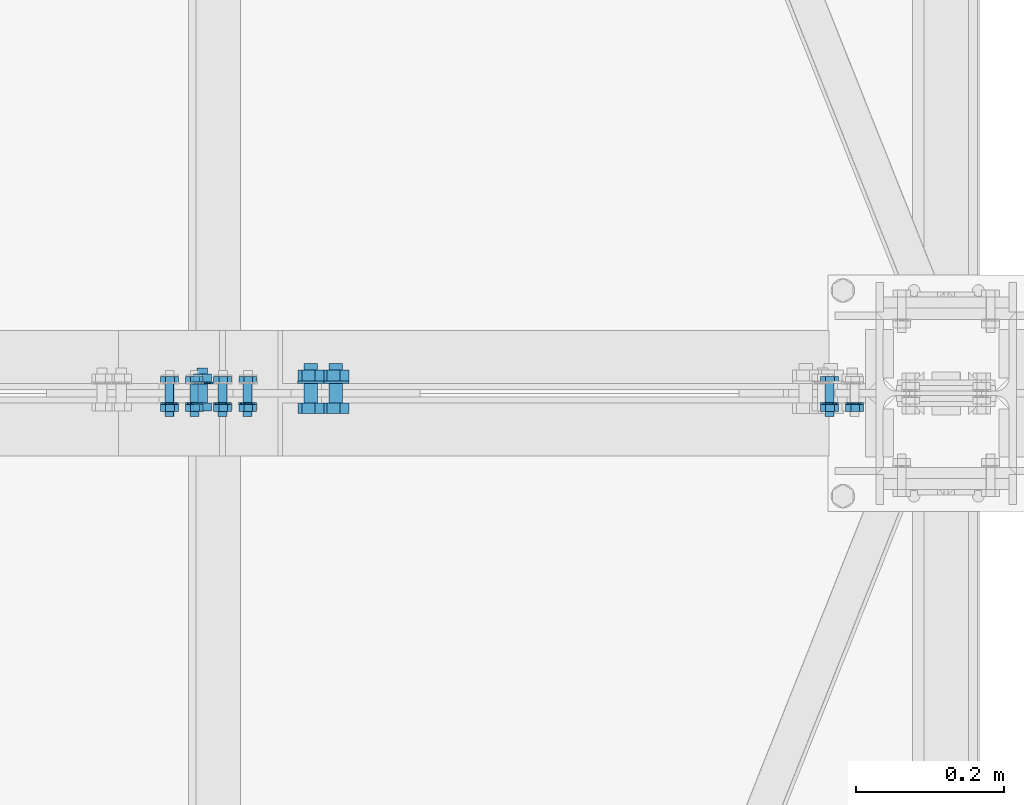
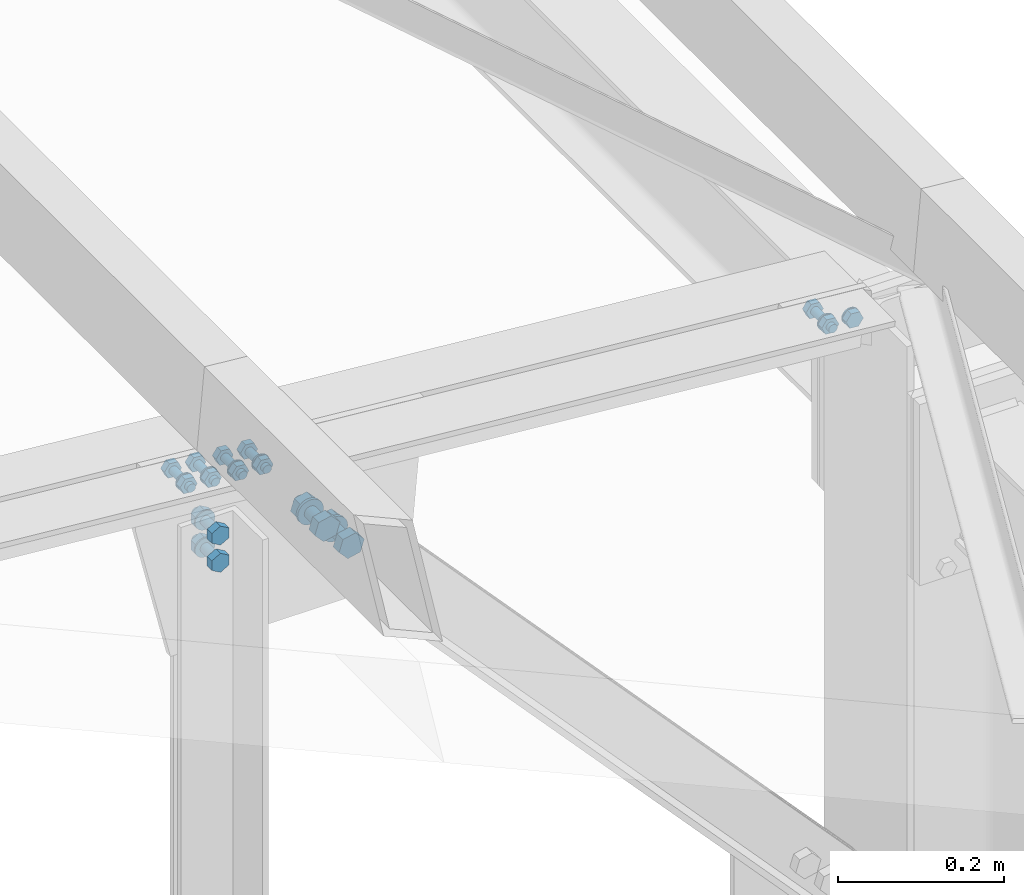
# One storey, part 112 of 251: 38 mechanical fasteners.
"""IFC4 building model written with IfcOpenShell, lengths in metres."""

import ifcopenshell
import ifcopenshell.guid

model = None  # the IFC model being written
_history = None  # IfcOwnerHistory: only IFC2X3 demands one
_inside = {}  # id of a spatial element -> (the spatial element, [elements in it])
_under = {}  # id of a project, library or spatial element -> (it, [spatial elements below it])
_declared = {}  # id of a project -> (the project, [libraries it declares])
_typed = {}  # id of a type object -> (the type object, [elements of that type])
_made_of = {}  # id of a material, layer set ... -> (it, [elements and type objects made of it])


def new_model(schema):
    """Start an empty IFC model of exactly this schema.

    Asked for "IFC4X3", IfcOpenShell would pick the latest addendum, in which some entities
    have other attributes; the version numbers below select the first issue.
    IFC2X3 requires an IfcOwnerHistory on every rooted entity: one is made here for all.
    """
    global model, _history
    if schema == "IFC4X3":
        model = ifcopenshell.file(schema_version=(4, 3, 0, 0))
    else:
        model = ifcopenshell.file(schema=schema)
    _inside.clear()
    _under.clear()
    _declared.clear()
    _typed.clear()
    _made_of.clear()
    _history = None
    if model.schema == "IFC2X3":
        org = make("IfcOrganization", Name="unknown")
        user = make(
            "IfcPersonAndOrganization",
            ThePerson=make("IfcPerson", FamilyName="unknown"),
            TheOrganization=org,
        )
        app = make(
            "IfcApplication",
            ApplicationDeveloper=org,
            Version="unknown",
            ApplicationFullName="unknown",
            ApplicationIdentifier="unknown",
        )
        _history = make(
            "IfcOwnerHistory",
            OwningUser=user,
            OwningApplication=app,
            ChangeAction="ADDED",
            CreationDate=0,
        )
    return model


def make(cls, **values):
    """One entity of the class cls with the attributes given. An attribute that is None is left unset."""
    return model.create_entity(
        cls, **{name: value for name, value in values.items() if value is not None}
    )


def rooted(cls, **values):
    """An entity with a GlobalId (a new one), such as an element, a storey or a relation."""
    return make(cls, GlobalId=ifcopenshell.guid.new(), OwnerHistory=_history, **values)


def si_unit(unit_type, name, prefix=None):
    """IfcSIUnit, for example si_unit("LENGTHUNIT", "METRE", prefix="MILLI")."""
    return make("IfcSIUnit", UnitType=unit_type, Prefix=prefix, Name=name)


def assignment(units):
    """IfcUnitAssignment: the units of a project."""
    return None if units is None else make("IfcUnitAssignment", Units=units)


def point(xyz):
    """IfcCartesianPoint."""
    return None if xyz is None else make("IfcCartesianPoint", Coordinates=xyz)


def direction(xyz):
    """IfcDirection."""
    return None if xyz is None else make("IfcDirection", DirectionRatios=xyz)


def frame(location, z_axis=None, x_axis=None):
    """IfcAxis2Placement3D, a coordinate frame: its origin and axes. An axis left out is left unset."""
    return make(
        "IfcAxis2Placement3D",
        Location=point(location),
        Axis=direction(z_axis),
        RefDirection=direction(x_axis),
    )


def origin_with_axes():
    """The frame at (0, 0, 0) with the z axis (0, 0, 1) and the x axis (1, 0, 0) written out."""
    return frame((0.0, 0.0, 0.0), z_axis=(0.0, 0.0, 1.0), x_axis=(1.0, 0.0, 0.0))


def place(relative_to, where):
    """IfcLocalPlacement: puts the frame where relative to a parent placement (None: the world)."""
    return make(
        "IfcLocalPlacement", PlacementRelTo=relative_to, RelativePlacement=where
    )


def context(
    kind, dimensions, precision=None, world=None, true_north=None, identifier=None
):
    """IfcGeometricRepresentationContext, for example the 3D "Model" context."""
    return make(
        "IfcGeometricRepresentationContext",
        ContextIdentifier=identifier,
        ContextType=kind,
        CoordinateSpaceDimension=dimensions,
        Precision=precision,
        WorldCoordinateSystem=world,
        TrueNorth=true_north,
    )


def project(units=None, contexts=None):
    """IfcProject with its units and contexts."""
    return rooted(
        "IfcProject",
        Name="project",
        RepresentationContexts=contexts,
        UnitsInContext=assignment(units),
    )


def spatial(cls, under=None, at=None, **own):
    """A site, building, storey or space (cls), placed at a placement, below another one or the project."""
    s = rooted(cls, ObjectPlacement=at, **own)
    if under is not None:
        _under.setdefault(under.id(), (under, []))[1].append(s)
    return s


def polyline(points):
    """IfcPolyline through the points."""
    return make("IfcPolyline", Points=[point(p) for p in points])


def outline(outer, holes=None, kind="AREA"):
    """IfcArbitraryClosedProfileDef: a profile drawn as a closed curve; with holes, ...WithVoids."""
    if holes is None:
        return make("IfcArbitraryClosedProfileDef", ProfileType=kind, OuterCurve=outer)
    return make(
        "IfcArbitraryProfileDefWithVoids",
        ProfileType=kind,
        OuterCurve=outer,
        InnerCurves=holes,
    )


def extrude(swept, where, along, depth):
    """IfcExtrudedAreaSolid: the profile swept, set in the frame where, extruded along a direction by depth."""
    return make(
        "IfcExtrudedAreaSolid",
        SweptArea=swept,
        Position=where,
        ExtrudedDirection=direction(along),
        Depth=depth,
    )


def shape(context_of_items, identifier, shape_type, items):
    """IfcShapeRepresentation: the items that make up one representation, for example the "Body"."""
    return make(
        "IfcShapeRepresentation",
        ContextOfItems=context_of_items,
        RepresentationIdentifier=identifier,
        RepresentationType=shape_type,
        Items=items,
    )


def made_of(thing, what):
    """Note that an element or type object is made of a material, layer set ...; save() writes the relation."""
    if what is not None:
        _made_of.setdefault(what.id(), (what, []))[1].append(thing)
    return thing


def type_object(cls, material=None, **own):
    """A type object (cls), such as IfcWallType, which elements share."""
    return made_of(rooted(cls, **own), material)


def element(
    cls,
    number,
    at=None,
    inside=None,
    cuts=None,
    type_object=None,
    material=None,
    context=None,
    identifier="Body",
    shape_type=None,
    held_by="IfcProductDefinitionShape",
    body=None,
    shapes=None,
    **own,
):
    """One element of the class cls, such as IfcWall. Its Tag is "e" and its number.

    at: its placement. inside: the storey or other place that contains it. cuts: it is an
    opening in that element (IfcRelVoidsElement). A single representation is given by context,
    identifier, shape_type and body (its items); several are given by shapes. held_by: the class
    of the entity that holds the representations. save() writes the other relations.
    """
    e = rooted(cls, Tag="e%d" % number, ObjectPlacement=at, **own)
    if body is not None:
        shapes = [shape(context, identifier, shape_type, body)]
    if shapes is not None:
        e.Representation = make(held_by, Representations=shapes)
    if inside is not None:
        _inside.setdefault(inside.id(), (inside, []))[1].append(e)
    if cuts is not None:
        rooted(
            "IfcRelVoidsElement", RelatingBuildingElement=cuts, RelatedOpeningElement=e
        )
    if type_object is not None:
        _typed.setdefault(type_object.id(), (type_object, []))[1].append(e)
    return made_of(e, material)


def aggregate(whole, parts):
    """IfcRelAggregates: a whole, such as a stair, and the parts it consists of."""
    return rooted("IfcRelAggregates", RelatingObject=whole, RelatedObjects=parts)


def save(model, path):
    """Write the relations noted so far, then the file.

    IfcRelAggregates (storeys below a building ...), IfcRelContainedInSpatialStructure (elements
    in a storey), IfcRelDefinesByType, IfcRelAssociatesMaterial and IfcRelDeclares: one each for
    every whole, place, type object, material and project.
    """
    for whole, parts in _under.values():
        aggregate(whole, parts)
    for where, things in _inside.values():
        rooted(
            "IfcRelContainedInSpatialStructure",
            RelatedElements=things,
            RelatingStructure=where,
        )
    for kind, things in _typed.values():
        rooted("IfcRelDefinesByType", RelatedObjects=things, RelatingType=kind)
    for what, things in _made_of.values():
        rooted("IfcRelAssociatesMaterial", RelatedObjects=things, RelatingMaterial=what)
    for by, libraries in _declared.values():
        rooted("IfcRelDeclares", RelatingContext=by, RelatedDefinitions=libraries)
    model.write(path)


model = new_model("IFC4")

# Units and contexts
model_context = context("Model", 3, precision=1e-05, world=origin_with_axes())
ifc_project = project(units=[si_unit("LENGTHUNIT", "METRE"), si_unit("AREAUNIT", "SQUARE_METRE"), si_unit("VOLUMEUNIT", "CUBIC_METRE"), si_unit("MASSUNIT", "GRAM", prefix="KILO"), si_unit("TIMEUNIT", "SECOND"), si_unit("PLANEANGLEUNIT", "RADIAN"), si_unit("SOLIDANGLEUNIT", "STERADIAN"), si_unit("THERMODYNAMICTEMPERATUREUNIT", "DEGREE_CELSIUS")], contexts=[model_context])

# Site, building, storey
placement_1 = place(None, origin_with_axes())
site = spatial("IfcSite", under=ifc_project, at=placement_1, Name="Italia", CompositionType="ELEMENT")
building = spatial("IfcBuilding", under=site, at=placement_1, Name="Deposito", CompositionType="ELEMENT")
storey = spatial("IfcBuildingStorey", under=building, at=placement_1, Name="Storey 0", CompositionType="ELEMENT", Elevation=0.0)

# Mechanical fasteners
mechanical_fastener_type_1 = type_object("IfcMechanicalFastenerType", Name="Reticolare 3", PredefinedType="BOLT")
placement_2 = place(placement_1, origin_with_axes())
mechanical_fastener_1_placement = place(placement_2, origin_with_axes())
element("IfcMechanicalFastener", 1, at=mechanical_fastener_1_placement, inside=storey, type_object=mechanical_fastener_type_1, Name="Reticolare 3", NominalDiameter=0.011999, context=model_context, shape_type="SweptSolid", body=[
    extrude(outline(polyline([(0.0, 0.0), (0.0119534, 0.00104618), (0.018837, -0.00878382), (0.0137653, -0.0196595), (0.00181198, -0.0207052), (-0.00507164, -0.0108757), (0.0, 0.0)])), frame((19.8831, 4.9754, 6.01363), z_axis=(0.0, 1.0, 0.0), x_axis=(-1.0, 0.0, 0.0)), (0.0, 0.0, 1.0), 0.00960016),
])
mechanical_fastener_type_2 = type_object("IfcMechanicalFastenerType", Name="Reticolare 3", PredefinedType="BOLT")
mechanical_fastener_2_placement = place(placement_2, origin_with_axes())
element("IfcMechanicalFastener", 2, at=mechanical_fastener_2_placement, inside=storey, type_object=mechanical_fastener_type_2, Name="Reticolare 3", NominalDiameter=0.024, context=model_context, shape_type="SweptSolid", body=[
    extrude(outline(polyline([(0.0, 0.0), (-0.000408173, -0.00310564), (-0.00160599, -0.00600004), (-0.00351334, -0.00848532), (-0.00599861, -0.0103922), (-0.00889397, -0.011591), (-0.0119991, -0.0120001), (-0.0151043, -0.011591), (-0.0179996, -0.0103922), (-0.0204849, -0.00848532), (-0.0223923, -0.00600004), (-0.0235901, -0.00310564), (-0.0239983, 0.0), (-0.0235901, 0.00310564), (-0.0223923, 0.00600004), (-0.0204849, 0.00848532), (-0.0179996, 0.0103922), (-0.0151043, 0.011591), (-0.0119991, 0.0120001), (-0.00889397, 0.011591), (-0.00599861, 0.0103922), (-0.00351334, 0.00848532), (-0.00160599, 0.00600004), (-0.000408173, 0.00310564), (0.0, 0.0)])), frame((19.8642, 4.985, 6.0038), z_axis=(0.0, 1.0, 0.0), x_axis=(-1.0, 0.0, 0.0)), (0.0, 0.0, 1.0), 0.00199986),
])
mechanical_fastener_type_3 = type_object("IfcMechanicalFastenerType", Name="Reticolare 3", PredefinedType="BOLT")
mechanical_fastener_3_placement = place(placement_2, origin_with_axes())
element("IfcMechanicalFastener", 3, at=mechanical_fastener_3_placement, inside=storey, type_object=mechanical_fastener_type_3, Name="Reticolare 3", NominalDiameter=0.011999, context=model_context, shape_type="SweptSolid", body=[
    extrude(outline(polyline([(0.0, 0.0), (0.0119534, 0.0010457), (0.018837, -0.00878429), (0.0137653, -0.01966), (0.00181198, -0.0207057), (-0.00507164, -0.0108757), (0.0, 0.0)])), frame((19.8492, 5.013, 6.0166), z_axis=(0.0, 1.0, 0.0), x_axis=(-1.0, 0.0, 0.0)), (0.0, 0.0, 1.0), 0.00960016),
])
mechanical_fastener_type_4 = type_object("IfcMechanicalFastenerType", Name="Reticolare 3", PredefinedType="BOLT")
mechanical_fastener_4_placement = place(placement_2, origin_with_axes())
element("IfcMechanicalFastener", 4, at=mechanical_fastener_4_placement, inside=storey, type_object=mechanical_fastener_type_4, Name="Reticolare 3", NominalDiameter=0.012, context=model_context, shape_type="SweptSolid", body=[
    extrude(outline(polyline([(0.0, 0.0), (-0.000204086, -0.00155306), (-0.000804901, -0.00299978), (-0.00175858, -0.00424242), (-0.00300026, -0.00519609), (-0.00444794, -0.00579548), (-0.00600052, -0.00600004), (-0.0075531, -0.00579548), (-0.00900078, -0.00519609), (-0.0102425, -0.00424242), (-0.0111961, -0.00299978), (-0.011797, -0.00155306), (-0.012001, 0.0), (-0.011797, 0.00155306), (-0.0111961, 0.00299978), (-0.0102425, 0.00424242), (-0.00900078, 0.00519609), (-0.0075531, 0.00579548), (-0.00600052, 0.00600004), (-0.00444794, 0.00579548), (-0.00300026, 0.00519609), (-0.00175858, 0.00424242), (-0.000804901, 0.00299978), (-0.000204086, 0.00155306), (0.0, 0.0)])), frame((19.8363, 4.969, 6.00677), z_axis=(0.0, 1.0, 0.0), x_axis=(-1.0, 0.0, 0.0)), (0.0, 0.0, 1.0), 0.0440001),
])
mechanical_fastener_type_5 = type_object("IfcMechanicalFastenerType", Name="Reticolare 3", PredefinedType="BOLT")
mechanical_fastener_5_placement = place(placement_2, origin_with_axes())
element("IfcMechanicalFastener", 5, at=mechanical_fastener_5_placement, inside=storey, type_object=mechanical_fastener_type_5, Name="Reticolare 3", NominalDiameter=0.011999, context=model_context, shape_type="SweptSolid", body=[
    extrude(outline(polyline([(0.0, 0.0), (0.0119534, 0.0010457), (0.018837, -0.00878429), (0.0137653, -0.01966), (0.00181198, -0.0207057), (-0.00507164, -0.0108757), (0.0, 0.0)])), frame((19.8492, 4.9754, 6.0166), z_axis=(0.0, 1.0, 0.0), x_axis=(-1.0, 0.0, 0.0)), (0.0, 0.0, 1.0), 0.00960016),
])
mechanical_fastener_type_6 = type_object("IfcMechanicalFastenerType", Name="Reticolare 3", PredefinedType="BOLT")
mechanical_fastener_6_placement = place(placement_2, origin_with_axes())
element("IfcMechanicalFastener", 6, at=mechanical_fastener_6_placement, inside=storey, type_object=mechanical_fastener_type_6, Name="Reticolare 3", NominalDiameter=0.024, context=model_context, shape_type="SweptSolid", body=[
    extrude(outline(polyline([(0.0, 0.0), (-0.000408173, -0.00310564), (-0.00160599, -0.00600004), (-0.00351334, -0.00848532), (-0.00599861, -0.0103922), (-0.00889397, -0.011591), (-0.0119991, -0.0120001), (-0.0151043, -0.011591), (-0.0179996, -0.0103922), (-0.0204849, -0.00848532), (-0.0223923, -0.00600004), (-0.0235901, -0.00310564), (-0.0239983, 0.0), (-0.0235901, 0.00310564), (-0.0223923, 0.00600004), (-0.0204849, 0.00848532), (-0.0179996, 0.0103922), (-0.0151043, 0.011591), (-0.0119991, 0.0120001), (-0.00889397, 0.011591), (-0.00599861, 0.0103922), (-0.00351334, 0.00848532), (-0.00160599, 0.00600004), (-0.000408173, 0.00310564), (0.0, 0.0)])), frame((19.8303, 4.985, 6.00677), z_axis=(0.0, 1.0, 0.0), x_axis=(-1.0, 0.0, 0.0)), (0.0, 0.0, 1.0), 0.00199986),
])
mechanical_fastener_type_7 = type_object("IfcMechanicalFastenerType", Name="Reticolare 3", PredefinedType="BOLT")
mechanical_fastener_7_placement = place(placement_2, origin_with_axes())
element("IfcMechanicalFastener", 7, at=mechanical_fastener_7_placement, inside=storey, type_object=mechanical_fastener_type_7, Name="Reticolare 3", NominalDiameter=0.011999, context=model_context, shape_type="SweptSolid", body=[
    extrude(outline(polyline([(0.0, 0.0), (0.0119534, 0.00104618), (0.018837, -0.00878382), (0.0137653, -0.0196595), (0.00181198, -0.0207052), (-0.00507164, -0.0108757), (0.0, 0.0)])), frame((18.9911, 5.013, 6.09167), z_axis=(0.0, 1.0, 0.0), x_axis=(-1.0, 0.0, 0.0)), (0.0, 0.0, 1.0), 0.00960016),
])
mechanical_fastener_type_8 = type_object("IfcMechanicalFastenerType", Name="Reticolare 3", PredefinedType="BOLT")
mechanical_fastener_8_placement = place(placement_2, origin_with_axes())
element("IfcMechanicalFastener", 8, at=mechanical_fastener_8_placement, inside=storey, type_object=mechanical_fastener_type_8, Name="Reticolare 3", NominalDiameter=0.012, context=model_context, shape_type="SweptSolid", body=[
    extrude(outline(polyline([(0.0, 0.0), (-0.000204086, -0.00155306), (-0.000804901, -0.00299978), (-0.00175858, -0.00424242), (-0.00300026, -0.00519609), (-0.00444794, -0.00579548), (-0.00600052, -0.00600004), (-0.0075531, -0.00579548), (-0.00900078, -0.00519609), (-0.0102425, -0.00424242), (-0.0111961, -0.00299978), (-0.011797, -0.00155306), (-0.012001, 0.0), (-0.011797, 0.00155306), (-0.0111961, 0.00299978), (-0.0102425, 0.00424242), (-0.00900078, 0.00519609), (-0.0075531, 0.00579548), (-0.00600052, 0.00600004), (-0.00444794, 0.00579548), (-0.00300026, 0.00519609), (-0.00175858, 0.00424242), (-0.000804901, 0.00299978), (-0.000204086, 0.00155306), (0.0, 0.0)])), frame((18.9783, 4.969, 6.08184), z_axis=(0.0, 1.0, 0.0), x_axis=(-1.0, 0.0, 0.0)), (0.0, 0.0, 1.0), 0.0440001),
])
mechanical_fastener_type_9 = type_object("IfcMechanicalFastenerType", Name="Reticolare 3", PredefinedType="BOLT")
mechanical_fastener_9_placement = place(placement_2, origin_with_axes())
element("IfcMechanicalFastener", 9, at=mechanical_fastener_9_placement, inside=storey, type_object=mechanical_fastener_type_9, Name="Reticolare 3", NominalDiameter=0.011999, context=model_context, shape_type="SweptSolid", body=[
    extrude(outline(polyline([(0.0, 0.0), (0.0119534, 0.00104618), (0.018837, -0.00878382), (0.0137653, -0.0196595), (0.00181198, -0.0207052), (-0.00507164, -0.0108757), (0.0, 0.0)])), frame((18.9911, 4.9754, 6.09167), z_axis=(0.0, 1.0, 0.0), x_axis=(-1.0, 0.0, 0.0)), (0.0, 0.0, 1.0), 0.00960016),
])
mechanical_fastener_type_10 = type_object("IfcMechanicalFastenerType", Name="Reticolare 3", PredefinedType="BOLT")
mechanical_fastener_10_placement = place(placement_2, origin_with_axes())
element("IfcMechanicalFastener", 10, at=mechanical_fastener_10_placement, inside=storey, type_object=mechanical_fastener_type_10, Name="Reticolare 3", NominalDiameter=0.024, context=model_context, shape_type="SweptSolid", body=[
    extrude(outline(polyline([(0.0, 0.0), (-0.000408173, -0.00310564), (-0.00160599, -0.00600004), (-0.00351334, -0.00848532), (-0.00599861, -0.0103922), (-0.00889397, -0.011591), (-0.0119991, -0.0120001), (-0.0151043, -0.011591), (-0.0179996, -0.0103922), (-0.0204849, -0.00848532), (-0.0223923, -0.00600004), (-0.0235901, -0.00310564), (-0.0239983, 0.0), (-0.0235901, 0.00310564), (-0.0223923, 0.00600004), (-0.0204849, 0.00848532), (-0.0179996, 0.0103922), (-0.0151043, 0.011591), (-0.0119991, 0.0120001), (-0.00889397, 0.011591), (-0.00599861, 0.0103922), (-0.00351334, 0.00848532), (-0.00160599, 0.00600004), (-0.000408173, 0.00310564), (0.0, 0.0)])), frame((18.9723, 4.985, 6.08184), z_axis=(0.0, 1.0, 0.0), x_axis=(-1.0, 0.0, 0.0)), (0.0, 0.0, 1.0), 0.00199986),
])
mechanical_fastener_type_11 = type_object("IfcMechanicalFastenerType", Name="Reticolare 3", PredefinedType="BOLT")
mechanical_fastener_11_placement = place(placement_2, origin_with_axes())
element("IfcMechanicalFastener", 11, at=mechanical_fastener_11_placement, inside=storey, type_object=mechanical_fastener_type_11, Name="Reticolare 3", NominalDiameter=0.011999, context=model_context, shape_type="SweptSolid", body=[
    extrude(outline(polyline([(0.0, 0.0), (0.0119534, 0.0010457), (0.018837, -0.00878429), (0.0137653, -0.01966), (0.00181198, -0.0207057), (-0.00507164, -0.0108757), (0.0, 0.0)])), frame((18.9573, 5.013, 6.09463), z_axis=(0.0, 1.0, 0.0), x_axis=(-1.0, 0.0, 0.0)), (0.0, 0.0, 1.0), 0.00960016),
])
mechanical_fastener_type_12 = type_object("IfcMechanicalFastenerType", Name="Reticolare 3", PredefinedType="BOLT")
mechanical_fastener_12_placement = place(placement_2, origin_with_axes())
element("IfcMechanicalFastener", 12, at=mechanical_fastener_12_placement, inside=storey, type_object=mechanical_fastener_type_12, Name="Reticolare 3", NominalDiameter=0.012, context=model_context, shape_type="SweptSolid", body=[
    extrude(outline(polyline([(0.0, 0.0), (-0.000204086, -0.00155306), (-0.000804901, -0.00299978), (-0.00175858, -0.00424242), (-0.00300026, -0.00519609), (-0.00444794, -0.00579548), (-0.00600052, -0.00600004), (-0.0075531, -0.00579548), (-0.00900078, -0.00519609), (-0.0102425, -0.00424242), (-0.0111961, -0.00299978), (-0.011797, -0.00155306), (-0.012001, 0.0), (-0.011797, 0.00155306), (-0.0111961, 0.00299978), (-0.0102425, 0.00424242), (-0.00900078, 0.00519609), (-0.0075531, 0.00579548), (-0.00600052, 0.00600004), (-0.00444794, 0.00579548), (-0.00300026, 0.00519609), (-0.00175858, 0.00424242), (-0.000804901, 0.00299978), (-0.000204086, 0.00155306), (0.0, 0.0)])), frame((18.9444, 4.969, 6.0848), z_axis=(0.0, 1.0, 0.0), x_axis=(-1.0, 0.0, 0.0)), (0.0, 0.0, 1.0), 0.0440001),
])
mechanical_fastener_type_13 = type_object("IfcMechanicalFastenerType", Name="Reticolare 3", PredefinedType="BOLT")
mechanical_fastener_13_placement = place(placement_2, origin_with_axes())
element("IfcMechanicalFastener", 13, at=mechanical_fastener_13_placement, inside=storey, type_object=mechanical_fastener_type_13, Name="Reticolare 3", NominalDiameter=0.011999, context=model_context, shape_type="SweptSolid", body=[
    extrude(outline(polyline([(0.0, 0.0), (0.0119534, 0.0010457), (0.018837, -0.00878429), (0.0137653, -0.01966), (0.00181198, -0.0207057), (-0.00507164, -0.0108757), (0.0, 0.0)])), frame((18.9573, 4.9754, 6.09463), z_axis=(0.0, 1.0, 0.0), x_axis=(-1.0, 0.0, 0.0)), (0.0, 0.0, 1.0), 0.00960016),
])
mechanical_fastener_type_14 = type_object("IfcMechanicalFastenerType", Name="Reticolare 3", PredefinedType="BOLT")
mechanical_fastener_14_placement = place(placement_2, origin_with_axes())
element("IfcMechanicalFastener", 14, at=mechanical_fastener_14_placement, inside=storey, type_object=mechanical_fastener_type_14, Name="Reticolare 3", NominalDiameter=0.024, context=model_context, shape_type="SweptSolid", body=[
    extrude(outline(polyline([(0.0, 0.0), (-0.000408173, -0.00310564), (-0.00160599, -0.00600004), (-0.00351334, -0.00848532), (-0.00599861, -0.0103922), (-0.00889397, -0.011591), (-0.0119991, -0.0120001), (-0.0151043, -0.011591), (-0.0179996, -0.0103922), (-0.0204849, -0.00848532), (-0.0223923, -0.00600004), (-0.0235901, -0.00310564), (-0.0239983, 0.0), (-0.0235901, 0.00310564), (-0.0223923, 0.00600004), (-0.0204849, 0.00848532), (-0.0179996, 0.0103922), (-0.0151043, 0.011591), (-0.0119991, 0.0120001), (-0.00889397, 0.011591), (-0.00599861, 0.0103922), (-0.00351334, 0.00848532), (-0.00160599, 0.00600004), (-0.000408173, 0.00310564), (0.0, 0.0)])), frame((18.9384, 4.985, 6.0848), z_axis=(0.0, 1.0, 0.0), x_axis=(-1.0, 0.0, 0.0)), (0.0, 0.0, 1.0), 0.00199986),
])
mechanical_fastener_type_15 = type_object("IfcMechanicalFastenerType", Name="Reticolare 3", PredefinedType="BOLT")
mechanical_fastener_15_placement = place(placement_2, origin_with_axes())
element("IfcMechanicalFastener", 15, at=mechanical_fastener_15_placement, inside=storey, type_object=mechanical_fastener_type_15, Name="Reticolare 3", NominalDiameter=0.011999, context=model_context, shape_type="SweptSolid", body=[
    extrude(outline(polyline([(0.0, 0.0), (0.0119534, 0.0010457), (0.018837, -0.00878429), (0.0137653, -0.01966), (0.00181007, -0.0207057), (-0.00507164, -0.0108757), (0.0, 0.0)])), frame((19.029, 5.013, 6.08836), z_axis=(0.0, 1.0, 0.0), x_axis=(-1.0, 0.0, 0.0)), (0.0, 0.0, 1.0), 0.00960016),
])
mechanical_fastener_type_16 = type_object("IfcMechanicalFastenerType", Name="Reticolare 3", PredefinedType="BOLT")
mechanical_fastener_16_placement = place(placement_2, origin_with_axes())
element("IfcMechanicalFastener", 16, at=mechanical_fastener_16_placement, inside=storey, type_object=mechanical_fastener_type_16, Name="Reticolare 3", NominalDiameter=0.012, context=model_context, shape_type="SweptSolid", body=[
    extrude(outline(polyline([(0.0, 0.0), (-0.000204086, -0.00155306), (-0.000804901, -0.00299978), (-0.00175858, -0.00424242), (-0.00300026, -0.00519609), (-0.00444794, -0.00579548), (-0.00600052, -0.00600004), (-0.0075531, -0.00579548), (-0.00900078, -0.00519609), (-0.0102425, -0.00424242), (-0.0111961, -0.00299978), (-0.011797, -0.00155306), (-0.012001, 0.0), (-0.011797, 0.00155306), (-0.0111961, 0.00299978), (-0.0102425, 0.00424242), (-0.00900078, 0.00519609), (-0.0075531, 0.00579548), (-0.00600052, 0.00600004), (-0.00444794, 0.00579548), (-0.00300026, 0.00519609), (-0.00175858, 0.00424242), (-0.000804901, 0.00299978), (-0.000204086, 0.00155306), (0.0, 0.0)])), frame((19.0161, 4.969, 6.07853), z_axis=(0.0, 1.0, 0.0), x_axis=(-1.0, 0.0, 0.0)), (0.0, 0.0, 1.0), 0.0440001),
])
mechanical_fastener_type_17 = type_object("IfcMechanicalFastenerType", Name="Reticolare 3", PredefinedType="BOLT")
mechanical_fastener_17_placement = place(placement_2, origin_with_axes())
element("IfcMechanicalFastener", 17, at=mechanical_fastener_17_placement, inside=storey, type_object=mechanical_fastener_type_17, Name="Reticolare 3", NominalDiameter=0.011999, context=model_context, shape_type="SweptSolid", body=[
    extrude(outline(polyline([(0.0, 0.0), (0.0119534, 0.0010457), (0.018837, -0.00878429), (0.0137653, -0.01966), (0.00181007, -0.0207057), (-0.00507164, -0.0108757), (0.0, 0.0)])), frame((19.029, 4.9754, 6.08836), z_axis=(0.0, 1.0, 0.0), x_axis=(-1.0, 0.0, 0.0)), (0.0, 0.0, 1.0), 0.00960016),
])
mechanical_fastener_type_18 = type_object("IfcMechanicalFastenerType", Name="Reticolare 3", PredefinedType="BOLT")
mechanical_fastener_18_placement = place(placement_2, origin_with_axes())
element("IfcMechanicalFastener", 18, at=mechanical_fastener_18_placement, inside=storey, type_object=mechanical_fastener_type_18, Name="Reticolare 3", NominalDiameter=0.024, context=model_context, shape_type="SweptSolid", body=[
    extrude(outline(polyline([(0.0, 0.0), (-0.000408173, -0.00310564), (-0.00160599, -0.00600004), (-0.00351334, -0.00848532), (-0.00599861, -0.0103922), (-0.00889397, -0.011591), (-0.0119991, -0.0120001), (-0.0151043, -0.011591), (-0.0179996, -0.0103922), (-0.0204849, -0.00848532), (-0.0223923, -0.00600004), (-0.0235901, -0.00310564), (-0.0239983, 0.0), (-0.0235901, 0.00310564), (-0.0223923, 0.00600004), (-0.0204849, 0.00848532), (-0.0179996, 0.0103922), (-0.0151043, 0.011591), (-0.0119991, 0.0120001), (-0.00889397, 0.011591), (-0.00599861, 0.0103922), (-0.00351334, 0.00848532), (-0.00160599, 0.00600004), (-0.000408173, 0.00310564), (0.0, 0.0)])), frame((19.0101, 4.985, 6.07853), z_axis=(0.0, 1.0, 0.0), x_axis=(-1.0, 0.0, 0.0)), (0.0, 0.0, 1.0), 0.00199986),
])
mechanical_fastener_type_19 = type_object("IfcMechanicalFastenerType", Name="Reticolare 3", PredefinedType="BOLT")
mechanical_fastener_19_placement = place(placement_2, origin_with_axes())
element("IfcMechanicalFastener", 19, at=mechanical_fastener_19_placement, inside=storey, type_object=mechanical_fastener_type_19, Name="Reticolare 3", NominalDiameter=0.011999, context=model_context, shape_type="SweptSolid", body=[
    extrude(outline(polyline([(0.0, 0.0), (0.0119534, 0.0010457), (0.018837, -0.00878382), (0.0137653, -0.0196595), (0.00181007, -0.0207052), (-0.00507164, -0.0108757), (0.0, 0.0)])), frame((19.0629, 5.013, 6.08539), z_axis=(0.0, 1.0, 0.0), x_axis=(-1.0, 0.0, 0.0)), (0.0, 0.0, 1.0), 0.00960016),
])
mechanical_fastener_type_20 = type_object("IfcMechanicalFastenerType", Name="Reticolare 3", PredefinedType="BOLT")
mechanical_fastener_20_placement = place(placement_2, origin_with_axes())
element("IfcMechanicalFastener", 20, at=mechanical_fastener_20_placement, inside=storey, type_object=mechanical_fastener_type_20, Name="Reticolare 3", NominalDiameter=0.012, context=model_context, shape_type="SweptSolid", body=[
    extrude(outline(polyline([(0.0, 0.0), (-0.000204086, -0.00155306), (-0.000804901, -0.00299978), (-0.00175858, -0.00424242), (-0.00300026, -0.00519609), (-0.00444794, -0.00579548), (-0.00600052, -0.00600004), (-0.0075531, -0.00579548), (-0.00900078, -0.00519609), (-0.0102425, -0.00424242), (-0.0111961, -0.00299978), (-0.011797, -0.00155306), (-0.012001, 0.0), (-0.011797, 0.00155306), (-0.0111961, 0.00299978), (-0.0102425, 0.00424242), (-0.00900078, 0.00519609), (-0.0075531, 0.00579548), (-0.00600052, 0.00600004), (-0.00444794, 0.00579548), (-0.00300026, 0.00519609), (-0.00175858, 0.00424242), (-0.000804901, 0.00299978), (-0.000204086, 0.00155306), (0.0, 0.0)])), frame((19.05, 4.969, 6.07556), z_axis=(0.0, 1.0, 0.0), x_axis=(-1.0, 0.0, 0.0)), (0.0, 0.0, 1.0), 0.0440001),
])
mechanical_fastener_type_21 = type_object("IfcMechanicalFastenerType", Name="Reticolare 3", PredefinedType="BOLT")
mechanical_fastener_21_placement = place(placement_2, origin_with_axes())
element("IfcMechanicalFastener", 21, at=mechanical_fastener_21_placement, inside=storey, type_object=mechanical_fastener_type_21, Name="Reticolare 3", NominalDiameter=0.011999, context=model_context, shape_type="SweptSolid", body=[
    extrude(outline(polyline([(0.0, 0.0), (0.0119534, 0.0010457), (0.018837, -0.00878382), (0.0137653, -0.0196595), (0.00181007, -0.0207052), (-0.00507164, -0.0108757), (0.0, 0.0)])), frame((19.0629, 4.9754, 6.08539), z_axis=(0.0, 1.0, 0.0), x_axis=(-1.0, 0.0, 0.0)), (0.0, 0.0, 1.0), 0.00960016),
])
mechanical_fastener_type_22 = type_object("IfcMechanicalFastenerType", Name="Reticolare 3", PredefinedType="BOLT")
mechanical_fastener_22_placement = place(placement_2, origin_with_axes())
element("IfcMechanicalFastener", 22, at=mechanical_fastener_22_placement, inside=storey, type_object=mechanical_fastener_type_22, Name="Reticolare 3", NominalDiameter=0.024, context=model_context, shape_type="SweptSolid", body=[
    extrude(outline(polyline([(0.0, 0.0), (-0.000408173, -0.00310564), (-0.00160599, -0.00600004), (-0.00351334, -0.00848532), (-0.00599861, -0.0103922), (-0.00889397, -0.011591), (-0.0119991, -0.0120001), (-0.0151043, -0.011591), (-0.0179996, -0.0103922), (-0.0204849, -0.00848532), (-0.0223923, -0.00600004), (-0.0235901, -0.00310564), (-0.0239983, 0.0), (-0.0235901, 0.00310564), (-0.0223923, 0.00600004), (-0.0204849, 0.00848532), (-0.0179996, 0.0103922), (-0.0151043, 0.011591), (-0.0119991, 0.0120001), (-0.00889397, 0.011591), (-0.00599861, 0.0103922), (-0.00351334, 0.00848532), (-0.00160599, 0.00600004), (-0.000408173, 0.00310564), (0.0, 0.0)])), frame((19.044, 4.985, 6.07556), z_axis=(0.0, 1.0, 0.0), x_axis=(-1.0, 0.0, 0.0)), (0.0, 0.0, 1.0), 0.00199986),
])
mechanical_fastener_type_23 = type_object("IfcMechanicalFastenerType", Name="Reticolare 3", PredefinedType="BOLT")
mechanical_fastener_23_placement = place(placement_2, origin_with_axes())
element("IfcMechanicalFastener", 23, at=mechanical_fastener_23_placement, inside=storey, type_object=mechanical_fastener_type_23, Name="Reticolare 3", NominalDiameter=0.0139989, context=model_context, shape_type="SweptSolid", body=[
    extrude(outline(polyline([(0.0, 0.0), (0.0, -0.0139999), (-0.012125, -0.0209999), (-0.0242481, -0.0139999), (-0.0242481, 0.0), (-0.012125, 0.00699997), (0.0, 0.0)])), frame((19.0069, 4.987, 6.0024), z_axis=(0.0, -1.0, 0.0), x_axis=(1.0, 0.0, 0.0)), (0.0, 0.0, 1.0), 0.0112),
])
mechanical_fastener_type_24 = type_object("IfcMechanicalFastenerType", Name="Reticolare 3", PredefinedType="BOLT")
mechanical_fastener_24_placement = place(placement_2, origin_with_axes())
element("IfcMechanicalFastener", 24, at=mechanical_fastener_24_placement, inside=storey, type_object=mechanical_fastener_type_24, Name="Reticolare 3", NominalDiameter=0.014, context=model_context, shape_type="SweptSolid", body=[
    extrude(outline(polyline([(0.0, 0.0), (-0.000238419, -0.0018115), (-0.000938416, -0.00349998), (-0.0020504, -0.00494957), (-0.00349998, -0.00606203), (-0.00518799, -0.00676155), (-0.00699997, -0.00699997), (-0.00881195, -0.00676155), (-0.0105, -0.00606203), (-0.0119495, -0.00494957), (-0.0130615, -0.00349998), (-0.0137615, -0.0018115), (-0.0139999, 0.0), (-0.0137615, 0.0018115), (-0.0130615, 0.00349998), (-0.0119495, 0.00494957), (-0.0105, 0.00606203), (-0.00881195, 0.00676155), (-0.00699997, 0.00699997), (-0.00518799, 0.00676155), (-0.00349998, 0.00606203), (-0.0020504, 0.00494957), (-0.000938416, 0.00349998), (-0.000238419, 0.0018115), (0.0, 0.0)])), frame((19.0018, 5.034, 5.99539), z_axis=(0.0, -1.0, 0.0), x_axis=(1.0, 0.0, 0.0)), (0.0, 0.0, 1.0), 0.0469999),
])
mechanical_fastener_type_25 = type_object("IfcMechanicalFastenerType", Name="Reticolare 3", PredefinedType="BOLT")
mechanical_fastener_25_placement = place(placement_2, origin_with_axes())
element("IfcMechanicalFastener", 25, at=mechanical_fastener_25_placement, inside=storey, type_object=mechanical_fastener_type_25, Name="Reticolare 3", NominalDiameter=0.0139989, context=model_context, shape_type="SweptSolid", body=[
    extrude(outline(polyline([(0.0, 0.0), (0.0, -0.0139999), (-0.012125, -0.0209999), (-0.0242481, -0.0139999), (-0.0242481, 0.0), (-0.012125, 0.00699997), (0.0, 0.0)])), frame((19.0069, 5.0262, 6.0024), z_axis=(0.0, -1.0, 0.0), x_axis=(1.0, 0.0, 0.0)), (0.0, 0.0, 1.0), 0.0112),
])
mechanical_fastener_type_26 = type_object("IfcMechanicalFastenerType", Name="Reticolare 3", PredefinedType="BOLT")
mechanical_fastener_26_placement = place(placement_2, origin_with_axes())
element("IfcMechanicalFastener", 26, at=mechanical_fastener_26_placement, inside=storey, type_object=mechanical_fastener_type_26, Name="Reticolare 3", NominalDiameter=0.028, context=model_context, shape_type="SweptSolid", body=[
    extrude(outline(polyline([(0.0, 0.0), (-0.000476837, -0.00362349), (-0.00187492, -0.00699997), (-0.0041008, -0.00989962), (-0.00699997, -0.0121245), (-0.010376, -0.0135231), (-0.0139999, -0.0139999), (-0.0176239, -0.0135231), (-0.0209999, -0.0121245), (-0.0238991, -0.00989962), (-0.026125, -0.00699997), (-0.027523, -0.00362349), (-0.0279999, 0.0), (-0.027523, 0.00362349), (-0.026125, 0.00699997), (-0.0238991, 0.00989962), (-0.0209999, 0.0121245), (-0.0176239, 0.0135231), (-0.0139999, 0.0139999), (-0.010376, 0.0135231), (-0.00699997, 0.0121245), (-0.0041008, 0.00989962), (-0.00187492, 0.00699997), (-0.000476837, 0.00362349), (0.0, 0.0)])), frame((19.0088, 5.015, 5.9954), z_axis=(0.0, -1.0, 0.0), x_axis=(1.0, 0.0, 0.0)), (0.0, 0.0, 1.0), 0.00199986),
])
mechanical_fastener_type_27 = type_object("IfcMechanicalFastenerType", Name="Reticolare 3", PredefinedType="BOLT")
mechanical_fastener_27_placement = place(placement_2, origin_with_axes())
element("IfcMechanicalFastener", 27, at=mechanical_fastener_27_placement, inside=storey, type_object=mechanical_fastener_type_27, Name="Reticolare 3", NominalDiameter=0.0139989, context=model_context, shape_type="SweptSolid", body=[
    extrude(outline(polyline([(0.0, 0.0), (0.0, -0.0139999), (-0.012125, -0.0210004), (-0.0242481, -0.0139999), (-0.0242481, 0.0), (-0.012125, 0.00699997), (0.0, 0.0)])), frame((19.0069, 4.987, 5.9624), z_axis=(0.0, -1.0, 0.0), x_axis=(1.0, 0.0, 0.0)), (0.0, 0.0, 1.0), 0.0112),
])
mechanical_fastener_type_28 = type_object("IfcMechanicalFastenerType", Name="Reticolare 3", PredefinedType="BOLT")
mechanical_fastener_28_placement = place(placement_2, origin_with_axes())
element("IfcMechanicalFastener", 28, at=mechanical_fastener_28_placement, inside=storey, type_object=mechanical_fastener_type_28, Name="Reticolare 3", NominalDiameter=0.014, context=model_context, shape_type="SweptSolid", body=[
    extrude(outline(polyline([(0.0, 0.0), (-0.000238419, -0.0018115), (-0.000938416, -0.00349998), (-0.0020504, -0.00494957), (-0.00349998, -0.00606203), (-0.00518799, -0.00676155), (-0.00699997, -0.00699997), (-0.00881195, -0.00676155), (-0.0105, -0.00606203), (-0.0119495, -0.00494957), (-0.0130615, -0.00349998), (-0.0137615, -0.0018115), (-0.0139999, 0.0), (-0.0137615, 0.0018115), (-0.0130615, 0.00349998), (-0.0119495, 0.00494957), (-0.0105, 0.00606203), (-0.00881195, 0.00676155), (-0.00699997, 0.00699997), (-0.00518799, 0.00676155), (-0.00349998, 0.00606203), (-0.0020504, 0.00494957), (-0.000938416, 0.00349998), (-0.000238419, 0.0018115), (0.0, 0.0)])), frame((19.0018, 5.034, 5.95539), z_axis=(0.0, -1.0, 0.0), x_axis=(1.0, 0.0, 0.0)), (0.0, 0.0, 1.0), 0.0469999),
])
mechanical_fastener_type_29 = type_object("IfcMechanicalFastenerType", Name="Reticolare 3", PredefinedType="BOLT")
mechanical_fastener_29_placement = place(placement_2, origin_with_axes())
element("IfcMechanicalFastener", 29, at=mechanical_fastener_29_placement, inside=storey, type_object=mechanical_fastener_type_29, Name="Reticolare 3", NominalDiameter=0.0139989, context=model_context, shape_type="SweptSolid", body=[
    extrude(outline(polyline([(0.0, 0.0), (0.0, -0.0139999), (-0.012125, -0.0210004), (-0.0242481, -0.0139999), (-0.0242481, 0.0), (-0.012125, 0.00699997), (0.0, 0.0)])), frame((19.0069, 5.0262, 5.9624), z_axis=(0.0, -1.0, 0.0), x_axis=(1.0, 0.0, 0.0)), (0.0, 0.0, 1.0), 0.0112),
])
mechanical_fastener_type_30 = type_object("IfcMechanicalFastenerType", Name="Reticolare 3", PredefinedType="BOLT")
mechanical_fastener_30_placement = place(placement_2, origin_with_axes())
element("IfcMechanicalFastener", 30, at=mechanical_fastener_30_placement, inside=storey, type_object=mechanical_fastener_type_30, Name="Reticolare 3", NominalDiameter=0.028, context=model_context, shape_type="SweptSolid", body=[
    extrude(outline(polyline([(0.0, 0.0), (-0.000476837, -0.00362349), (-0.00187492, -0.00699997), (-0.0041008, -0.00989962), (-0.00699997, -0.0121245), (-0.010376, -0.0135231), (-0.0139999, -0.0139999), (-0.0176239, -0.0135231), (-0.0209999, -0.0121245), (-0.0238991, -0.00989962), (-0.026125, -0.00699997), (-0.027523, -0.00362349), (-0.0279999, 0.0), (-0.027523, 0.00362349), (-0.026125, 0.00699997), (-0.0238991, 0.00989962), (-0.0209999, 0.0121245), (-0.0176239, 0.0135231), (-0.0139999, 0.0139999), (-0.010376, 0.0135231), (-0.00699997, 0.0121245), (-0.0041008, 0.00989962), (-0.00187492, 0.00699997), (-0.000476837, 0.00362349), (0.0, 0.0)])), frame((19.0088, 5.015, 5.95539), z_axis=(0.0, -1.0, 0.0), x_axis=(1.0, 0.0, 0.0)), (0.0, 0.0, 1.0), 0.00199986),
])
mechanical_fastener_type_31 = type_object("IfcMechanicalFastenerType", Name="Reticolare 3", PredefinedType="BOLT")
mechanical_fastener_31_placement = place(placement_2, origin_with_axes())
element("IfcMechanicalFastener", 31, at=mechanical_fastener_31_placement, inside=storey, type_object=mechanical_fastener_type_31, Name="Reticolare 3", NominalDiameter=0.0179991, context=model_context, shape_type="SweptSolid", body=[
    extrude(outline(polyline([(0.0, 0.0), (-0.0121613, 0.0132709), (-0.0067482, 0.0304379), (0.0108242, 0.0343337), (0.0229855, 0.0210629), (0.0175724, 0.00389576), (0.0, 0.0)])), frame((19.1361, 4.987, 5.93891), z_axis=(0.0, -1.0, 0.0), x_axis=(1.0, 0.0, 0.0)), (0.0, 0.0, 1.0), 0.0144),
])
mechanical_fastener_type_32 = type_object("IfcMechanicalFastenerType", Name="Reticolare 3", PredefinedType="BOLT")
mechanical_fastener_32_placement = place(placement_2, origin_with_axes())
element("IfcMechanicalFastener", 32, at=mechanical_fastener_32_placement, inside=storey, type_object=mechanical_fastener_type_32, Name="Reticolare 3", NominalDiameter=0.018, context=model_context, shape_type="SweptSolid", body=[
    extrude(outline(polyline([(0.0, 0.0), (-0.000307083, -0.00232935), (-0.00120735, -0.00449991), (-0.00263596, -0.00636387), (-0.00450134, -0.00779438), (-0.00667191, -0.00869322), (-0.00900078, -0.00899982), (-0.0113297, -0.00869322), (-0.0135002, -0.00779438), (-0.0153656, -0.00636387), (-0.0167942, -0.00449991), (-0.0176945, -0.00232935), (-0.0180016, 0.0), (-0.0176945, 0.00232935), (-0.0167942, 0.00449991), (-0.0153656, 0.00636387), (-0.0135002, 0.00779438), (-0.0113297, 0.00869322), (-0.00900078, 0.00899982), (-0.00667191, 0.00869322), (-0.00450134, 0.00779438), (-0.00263596, 0.00636387), (-0.00120735, 0.00449991), (-0.000307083, 0.00232935), (0.0, 0.0)])), frame((19.1505, 5.04, 5.95608), z_axis=(0.0, -1.0, 0.0), x_axis=(1.0, 0.0, 0.0)), (0.0, 0.0, 1.0), 0.053),
])
mechanical_fastener_type_33 = type_object("IfcMechanicalFastenerType", Name="Reticolare 3", PredefinedType="BOLT")
mechanical_fastener_33_placement = place(placement_2, origin_with_axes())
element("IfcMechanicalFastener", 33, at=mechanical_fastener_33_placement, inside=storey, type_object=mechanical_fastener_type_33, Name="Reticolare 3", NominalDiameter=0.0179991, context=model_context, shape_type="SweptSolid", body=[
    extrude(outline(polyline([(0.0, 0.0), (-0.0121613, 0.0132709), (-0.0067482, 0.0304379), (0.0108242, 0.0343337), (0.0229855, 0.0210629), (0.0175724, 0.00389576), (0.0, 0.0)])), frame((19.1361, 5.0314, 5.93891), z_axis=(0.0, -1.0, 0.0), x_axis=(1.0, 0.0, 0.0)), (0.0, 0.0, 1.0), 0.0144),
])
mechanical_fastener_type_34 = type_object("IfcMechanicalFastenerType", Name="Reticolare 3", PredefinedType="BOLT")
mechanical_fastener_34_placement = place(placement_2, origin_with_axes())
element("IfcMechanicalFastener", 34, at=mechanical_fastener_34_placement, inside=storey, type_object=mechanical_fastener_type_34, Name="Reticolare 3", NominalDiameter=0.036, context=model_context, shape_type="SweptSolid", body=[
    extrude(outline(polyline([(0.0, 0.0), (-0.000612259, -0.0046587), (-0.00241089, -0.00899982), (-0.00527191, -0.0127277), (-0.00899887, -0.0155883), (-0.01334, -0.0173864), (-0.0179996, -0.0180001), (-0.0226593, -0.0173864), (-0.0270004, -0.0155883), (-0.0307274, -0.0127277), (-0.0335884, -0.00899982), (-0.035387, -0.0046587), (-0.0359993, 0.0), (-0.035387, 0.0046587), (-0.0335884, 0.00899982), (-0.0307274, 0.0127277), (-0.0270004, 0.0155883), (-0.0226593, 0.0173864), (-0.0179996, 0.0180001), (-0.01334, 0.0173864), (-0.00899887, 0.0155883), (-0.00527191, 0.0127277), (-0.00241089, 0.00899982), (-0.000612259, 0.0046587), (0.0, 0.0)])), frame((19.1595, 5.017, 5.95608), z_axis=(0.0, -1.0, 0.0), x_axis=(1.0, 0.0, 0.0)), (0.0, 0.0, 1.0), 0.00400019),
])
mechanical_fastener_type_35 = type_object("IfcMechanicalFastenerType", Name="Reticolare 3", PredefinedType="BOLT")
mechanical_fastener_35_placement = place(placement_2, origin_with_axes())
element("IfcMechanicalFastener", 35, at=mechanical_fastener_35_placement, inside=storey, type_object=mechanical_fastener_type_35, Name="Reticolare 3", NominalDiameter=0.017999, context=model_context, shape_type="SweptSolid", body=[
    extrude(outline(polyline([(0.0, 0.0), (-0.0121613, 0.0132709), (-0.0067482, 0.0304379), (0.0108261, 0.0343337), (0.0229855, 0.0210629), (0.0175724, 0.00389576), (0.0, 0.0)])), frame((19.1699, 4.987, 5.90205), z_axis=(0.0, -1.0, 0.0), x_axis=(1.0, 0.0, 0.0)), (0.0, 0.0, 1.0), 0.0144),
])
mechanical_fastener_type_36 = type_object("IfcMechanicalFastenerType", Name="Reticolare 3", PredefinedType="BOLT")
mechanical_fastener_36_placement = place(placement_2, origin_with_axes())
element("IfcMechanicalFastener", 36, at=mechanical_fastener_36_placement, inside=storey, type_object=mechanical_fastener_type_36, Name="Reticolare 3", NominalDiameter=0.018, context=model_context, shape_type="SweptSolid", body=[
    extrude(outline(polyline([(0.0, 0.0), (-0.000307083, -0.00232935), (-0.00120735, -0.00449991), (-0.00263596, -0.00636387), (-0.00450134, -0.00779438), (-0.00667191, -0.00869322), (-0.00900078, -0.00899982), (-0.0113297, -0.00869322), (-0.0135002, -0.00779438), (-0.0153656, -0.00636387), (-0.0167942, -0.00449991), (-0.0176945, -0.00232935), (-0.0180016, 0.0), (-0.0176945, 0.00232935), (-0.0167942, 0.00449991), (-0.0153656, 0.00636387), (-0.0135002, 0.00779438), (-0.0113297, 0.00869322), (-0.00900078, 0.00899982), (-0.00667191, 0.00869322), (-0.00450134, 0.00779438), (-0.00263596, 0.00636387), (-0.00120735, 0.00449991), (-0.000307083, 0.00232935), (0.0, 0.0)])), frame((19.1843, 5.04, 5.91922), z_axis=(0.0, -1.0, 0.0), x_axis=(1.0, 0.0, 0.0)), (0.0, 0.0, 1.0), 0.053),
])
mechanical_fastener_type_37 = type_object("IfcMechanicalFastenerType", Name="Reticolare 3", PredefinedType="BOLT")
mechanical_fastener_37_placement = place(placement_2, origin_with_axes())
element("IfcMechanicalFastener", 37, at=mechanical_fastener_37_placement, inside=storey, type_object=mechanical_fastener_type_37, Name="Reticolare 3", NominalDiameter=0.017999, context=model_context, shape_type="SweptSolid", body=[
    extrude(outline(polyline([(0.0, 0.0), (-0.0121613, 0.0132709), (-0.0067482, 0.0304379), (0.0108261, 0.0343337), (0.0229855, 0.0210629), (0.0175724, 0.00389576), (0.0, 0.0)])), frame((19.1699, 5.0314, 5.90205), z_axis=(0.0, -1.0, 0.0), x_axis=(1.0, 0.0, 0.0)), (0.0, 0.0, 1.0), 0.0144),
])
mechanical_fastener_type_38 = type_object("IfcMechanicalFastenerType", Name="Reticolare 3", PredefinedType="BOLT")
mechanical_fastener_38_placement = place(placement_2, origin_with_axes())
element("IfcMechanicalFastener", 38, at=mechanical_fastener_38_placement, inside=storey, type_object=mechanical_fastener_type_38, Name="Reticolare 3", NominalDiameter=0.036, context=model_context, shape_type="SweptSolid", body=[
    extrude(outline(polyline([(0.0, 0.0), (-0.000612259, -0.0046587), (-0.00241089, -0.00899982), (-0.00527191, -0.0127277), (-0.00899887, -0.0155883), (-0.01334, -0.0173864), (-0.0179996, -0.0180001), (-0.0226593, -0.0173864), (-0.0270004, -0.0155883), (-0.0307274, -0.0127277), (-0.0335884, -0.00899982), (-0.035387, -0.0046587), (-0.0359993, 0.0), (-0.035387, 0.0046587), (-0.0335884, 0.00899982), (-0.0307274, 0.0127277), (-0.0270004, 0.0155883), (-0.0226593, 0.0173864), (-0.0179996, 0.0180001), (-0.01334, 0.0173864), (-0.00899887, 0.0155883), (-0.00527191, 0.0127277), (-0.00241089, 0.00899982), (-0.000612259, 0.0046587), (0.0, 0.0)])), frame((19.1933, 5.017, 5.91922), z_axis=(0.0, -1.0, 0.0), x_axis=(1.0, 0.0, 0.0)), (0.0, 0.0, 1.0), 0.00400019),
])

save(model, "model.ifc")
